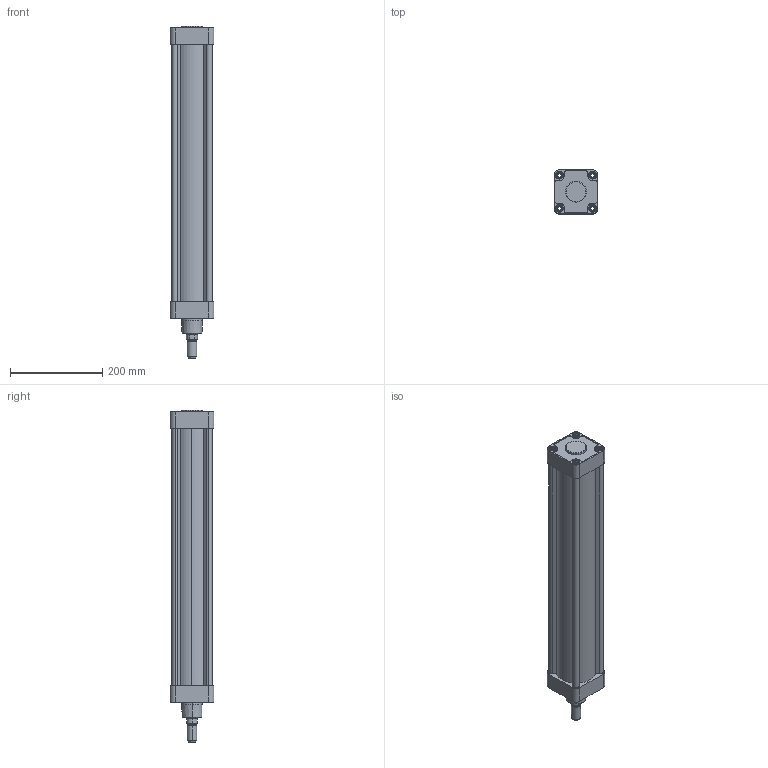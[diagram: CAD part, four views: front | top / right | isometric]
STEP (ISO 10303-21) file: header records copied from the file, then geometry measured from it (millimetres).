
FILE_DESCRIPTION (( 'STEP AP203' ), '1' );
FILE_NAME ('EH0800500G.step', '2014-04-24T16:15:36', ( '' ), ( '' ), 'SwSTEP 2.0', 'SolidWorks 2013', '' );
FILE_SCHEMA (( 'CONFIG_CONTROL_DESIGN' ));
Length unit declared in the file: millimetre
Products named in the file (1): EH0800500G
Bounding box: 95 x 95 x 718 mm (x, y, z)
Surface area: 351742.8 mm2 (no closed solid volume)
Topology: 0 solids, 17 shells, 439 faces, 1341 edges, 901 vertices
Faces by surface type: plane 174, cylinder 158, cone 93, torus 14
Entity records: 15159 total; most frequent: CARTESIAN_POINT 3028, DIRECTION 2647, ORIENTED_EDGE 2285, EDGE_CURVE 1341, AXIS2_PLACEMENT_3D 972, VERTEX_POINT 901, LINE 703, VECTOR 703
